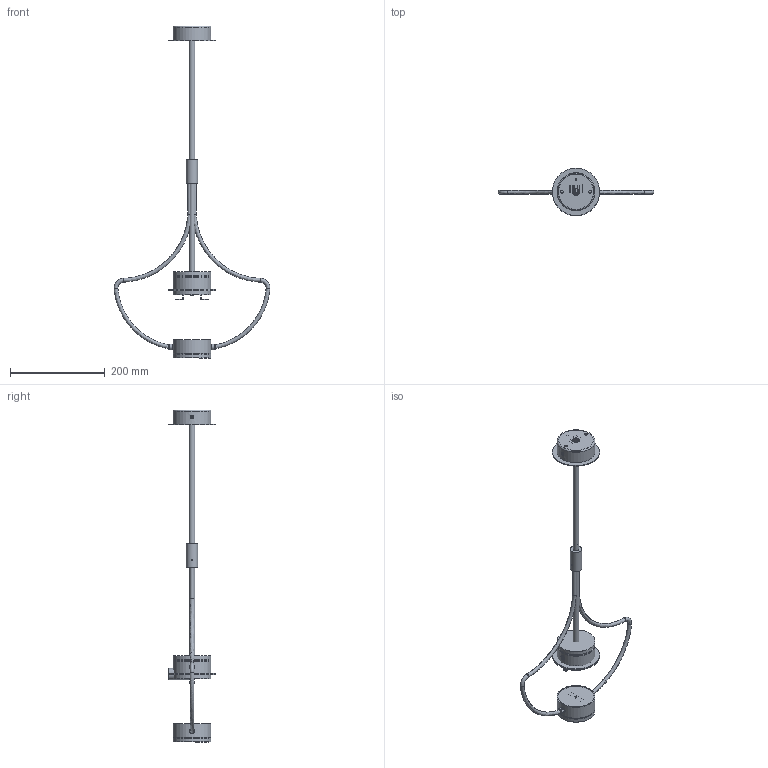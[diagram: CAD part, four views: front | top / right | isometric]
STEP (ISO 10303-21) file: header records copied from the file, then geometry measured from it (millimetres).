
FILE_DESCRIPTION( ( 'Unknown' ), '1' );
FILE_NAME( '//NAS001/PubblicaNas/PROGETTI MM LAMPADARI/PROPOSTE_STUDIO 2020_2021/SERIE DA INDICAZIONI/PROGETTO 1920/1920 con LED8W_Sospensione stelo doppio_singolo/Modulo_sospensione.stp', 'Unknown', ( 'Unknown' ), ( 'Unknown' ), 'XStep 1.0', 'Unknown', ' ' );
FILE_SCHEMA( ( 'automotive_design' ) );
Length unit declared in the file: millimetre
Products named in the file (25): Assem1; Assem2; Assem3; Assem4; Assem5; Assem6; Allumino interno a scatola; Modulo LED  8W; Vite autofilettante; Disco chiusura rosone singolo; Staffetta per rosone singolo; Scatola superiore_per PMMA; PMMA; Omega interno; Disco chiusura scatola; DADO M4; Mezzo modulo Ø8; Raccordo 8-10; Rosone singolo; Morsetto con serigrafia 3 poli_con terra; Morsetto_wago; RONDELLA dentata; Dado M10x1; Scatola collegamento; Allunga 250
Bounding box: 328.46 x 100 x 700 mm (x, y, z)
Volume: 480037.7 mm3; surface area: 499458.9 mm2
Topology: 77 solids, 77 shells, 2255 faces, 5410 edges, 3285 vertices
Faces by surface type: plane 1073, cylinder 789, torus 206, sphere 120, bspline 34, cone 33
Full cylindrical faces by diameter (mm): 2 x8, 2.1 x24, 2.2 x10, 3 x15, 3.242 x23, 4 x22, 4.5 x24, 5 x13, 5.5 x26, 6 x14, 7 x4, 8 x10, 8.5 x4, 8.917 x7, 10 x4, 10.25 x13, 11.445 x2, 12 x6, 14 x3, 15 x7, 24 x2, 49 x4, 52 x6, 75 x4, 76 x3, 77 x6, 80 x9, 100 x4
Entity records: 18668 total; most frequent: CARTESIAN_POINT 6207, DIRECTION 2603, ORIENTED_EDGE 2216, EDGE_CURVE 1108, AXIS2_PLACEMENT_3D 985, VERTEX_POINT 765, EDGE_LOOP 723, LINE 633
